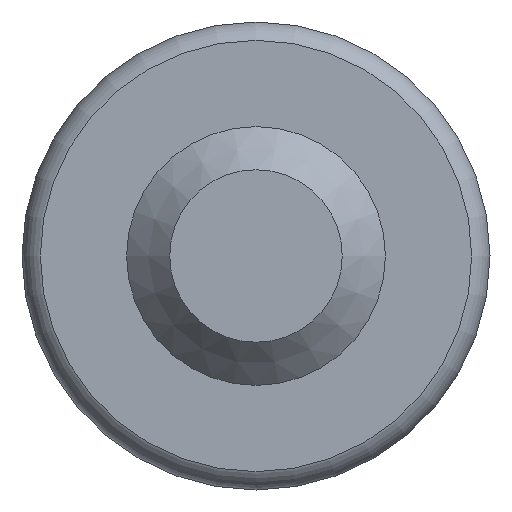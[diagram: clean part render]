
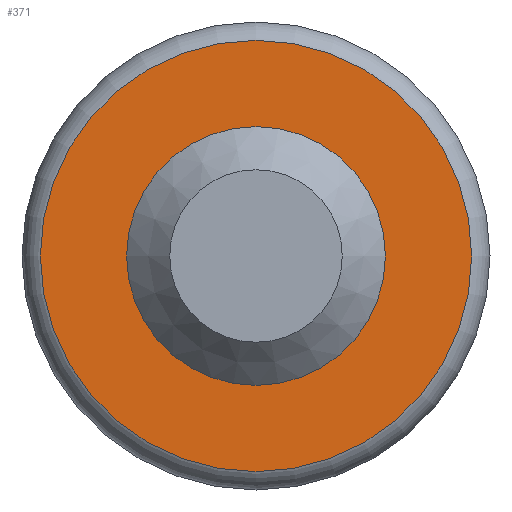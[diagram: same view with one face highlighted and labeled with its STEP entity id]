
A CAD part, front view. The second image highlights one B-rep face of the part: STEP entity #371.
In plain terms, the highlighted planar face has unit normal (0, -1, 0).
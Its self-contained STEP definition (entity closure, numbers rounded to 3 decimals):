
#2 = DIRECTION ( 'NONE',  ( -1., 0., 0. ) ) ;
#19 = AXIS2_PLACEMENT_3D ( 'NONE', #97, #431, #2 ) ;
#30 = DIRECTION ( 'NONE',  ( -1., 0., 0. ) ) ;
#47 = ORIENTED_EDGE ( 'NONE', *, *, #271, .F. ) ;
#64 = EDGE_CURVE ( 'NONE', #79, #79, #76, .T. ) ;
#76 = CIRCLE ( 'NONE', #164, 3. ) ;
#79 = VERTEX_POINT ( 'NONE', #448 ) ;
#97 = CARTESIAN_POINT ( 'NONE',  ( 0., -58., 0. ) ) ;
#164 = AXIS2_PLACEMENT_3D ( 'NONE', #264, #194, #338 ) ;
#186 = VERTEX_POINT ( 'NONE', #330 ) ;
#194 = DIRECTION ( 'NONE',  ( 0., 1., 0. ) ) ;
#237 = AXIS2_PLACEMENT_3D ( 'NONE', #391, #442, #30 ) ;
#242 = PLANE ( 'NONE',  #237 ) ;
#264 = CARTESIAN_POINT ( 'NONE',  ( 0., -58., 0. ) ) ;
#271 = EDGE_CURVE ( 'NONE', #186, #186, #360, .T. ) ;
#312 = EDGE_LOOP ( 'NONE', ( #357 ) ) ;
#330 = CARTESIAN_POINT ( 'NONE',  ( -5., -58., 0. ) ) ;
#338 = DIRECTION ( 'NONE',  ( -1., 0., 0. ) ) ;
#357 = ORIENTED_EDGE ( 'NONE', *, *, #64, .T. ) ;
#360 = CIRCLE ( 'NONE', #19, 5. ) ;
#371 = ADVANCED_FACE ( 'NONE', ( #470, #397 ), #242, .F. ) ;
#391 = CARTESIAN_POINT ( 'NONE',  ( 3., -58., 0. ) ) ;
#397 = FACE_BOUND ( 'NONE', #312, .T. ) ;
#431 = DIRECTION ( 'NONE',  ( 0., 1., 0. ) ) ;
#442 = DIRECTION ( 'NONE',  ( 0., 1., 0. ) ) ;
#448 = CARTESIAN_POINT ( 'NONE',  ( -3., -58., 0. ) ) ;
#470 = FACE_OUTER_BOUND ( 'NONE', #476, .T. ) ;
#476 = EDGE_LOOP ( 'NONE', ( #47 ) ) ;
